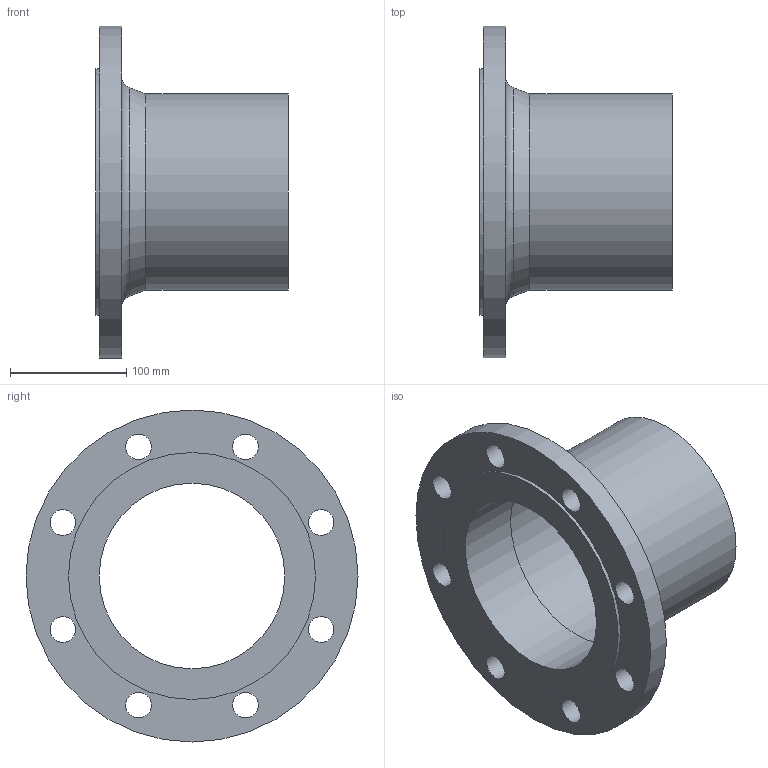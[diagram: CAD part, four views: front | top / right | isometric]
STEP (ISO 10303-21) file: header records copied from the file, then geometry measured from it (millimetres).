
FILE_DESCRIPTION(/* description */ (''),/* implementation_level */ '2;1');
FILE_NAME(/* name */ 'C:\Users\LK_9K\Desktop\STRAUB FLANSCHADAPTER DN150.stp',/* time_stamp */ '2021-04-12T09:17:44+02:00',/* author */ ('LK_9K'),/* organization */ (''),/* preprocessor_version */ 'ST-DEVELOPER v18.1',/* originating_system */ 'Autodesk Inventor 2020',/* authorisation */ '');
FILE_SCHEMA (('AUTOMOTIVE_DESIGN { 1 0 10303 214 3 1 1 }'));
Length unit declared in the file: millimetre
Products named in the file (1): Bauteil1
Bounding box: 165 x 285 x 285 mm (x, y, z)
Volume: 1097056.8 mm3; surface area: 266629.4 mm2
Topology: 1 solids, 1 shells, 20 faces, 62 edges, 47 vertices
Faces by surface type: cylinder 13, plane 5, torus 1, cone 1
Full cylindrical faces by diameter (mm): 22 x8, 159.3 x1, 163.1 x1, 168.3 x1, 212 x1, 285 x1
Entity records: 827 total; most frequent: DIRECTION 152, CARTESIAN_POINT 130, ORIENTED_EDGE 124, AXIS2_PLACEMENT_3D 69, EDGE_CURVE 62, CIRCLE 48, VERTEX_POINT 47, EDGE_LOOP 41
